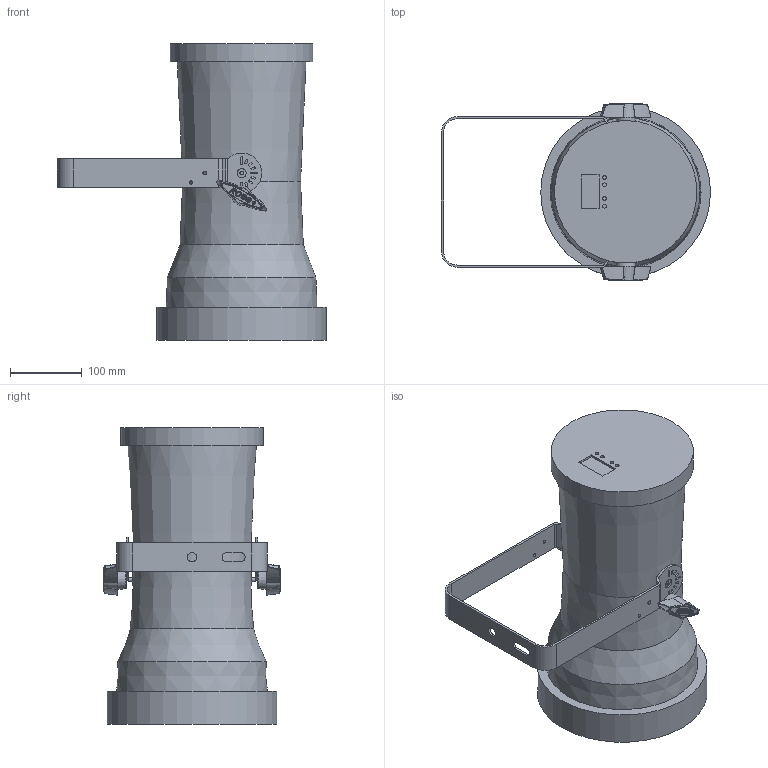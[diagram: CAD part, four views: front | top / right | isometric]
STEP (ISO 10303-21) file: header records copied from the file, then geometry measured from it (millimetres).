
FILE_DESCRIPTION(/* description */ ('Unknown'),/* implementation_level */ '2;1');
FILE_NAME(/* name */ '3D_iParfect_150',/* time_stamp */ '2021-05-12T16:01:34+02:00',/* author */ ('Unknown'),/* organization */ ('Unknown'),/* preprocessor_version */ 'ST-DEVELOPER v16.7',/* originating_system */ 'Solid Edge',/* authorisation */ 'Unknown');
FILE_SCHEMA (('AUTOMOTIVE_DESIGN {1 0 10303 214 3 1 1}'));
Length unit declared in the file: millimetre
Products named in the file (4): 3D_iParfect_150; Telo; 11016371 Držák A IP; 19020128-00 ROBE šroub M8 - køídlo
Assembly tree (4 placements, depth 2):
  3D_iParfect_150
    Telo
    11016371 Držák A IP
    19020128-00 ROBE šroub M8 - køídlo  x2
Bounding box: 375.47 x 247.81 x 413.94 mm (x, y, z)
Volume: 11509001.5 mm3; surface area: 420134.9 mm2
Topology: 4 solids, 4 shells, 912 faces, 2268 edges, 1399 vertices
Faces by surface type: bspline 366, plane 209, cylinder 175, sphere 78, torus 50, cone 34
Full cylindrical faces by diameter (mm): 3.6 x2, 4.5 x4, 5 x4, 5.1 x2, 5.351 x4, 12.75 x2, 13 x1, 198.804 x1, 236.933 x1
Entity records: 22107 total; most frequent: CARTESIAN_POINT 9515, ORIENTED_EDGE 2782, DIRECTION 2254, EDGE_CURVE 1391, VERTEX_POINT 897, AXIS2_PLACEMENT_3D 892, EDGE_LOOP 702, FACE_BOUND 702
